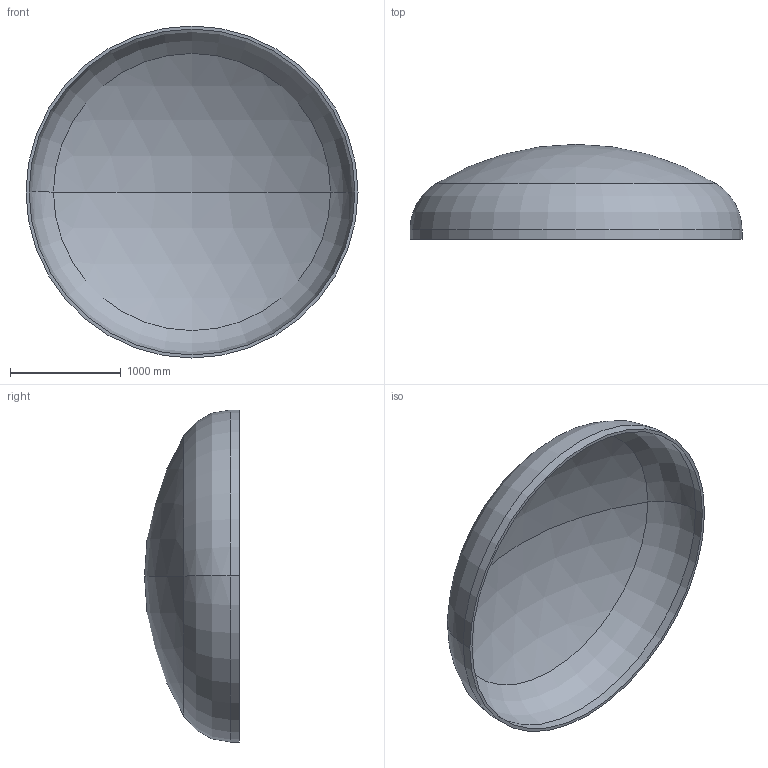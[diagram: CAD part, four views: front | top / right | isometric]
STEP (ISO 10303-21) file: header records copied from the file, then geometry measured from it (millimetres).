
FILE_DESCRIPTION (( 'STEP AP203' ), '1' );
FILE_NAME ('DIN 28013 Korbbogenform_-_Boden DIN 28013 - 3000 x 85 - I - s=28.step', '2016-07-01T17:38:54', ( '' ), ( '' ), 'SwSTEP 2.0', 'SolidWorks 2013', '' );
FILE_SCHEMA (( 'CONFIG_CONTROL_DESIGN' ));
Length unit declared in the file: millimetre
Products named in the file (1): DIN 28013 Korbbogenform_-_Boden DIN 28013 - 3000 x 85 - I - s=28
Bounding box: 3000 x 857.87 x 3000 mm (x, y, z)
Volume: 292746507.4 mm3; surface area: 21173529.8 mm2
Topology: 1 solids, 1 shells, 13 faces, 24 edges, 14 vertices
Faces by surface type: torus 4, cylinder 4, sphere 4, plane 1
Entity records: 407 total; most frequent: DIRECTION 72, CARTESIAN_POINT 52, ORIENTED_EDGE 48, AXIS2_PLACEMENT_3D 34, EDGE_CURVE 24, CIRCLE 20, EDGE_LOOP 14, VERTEX_POINT 14
